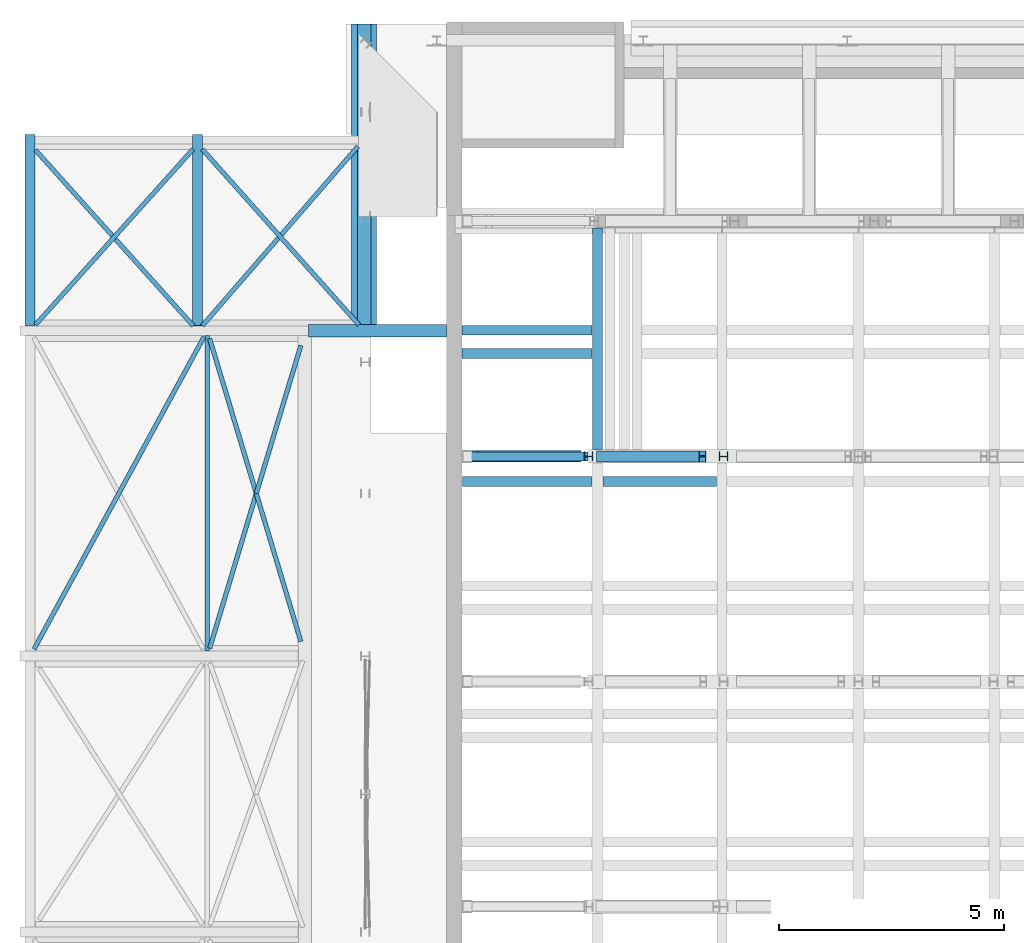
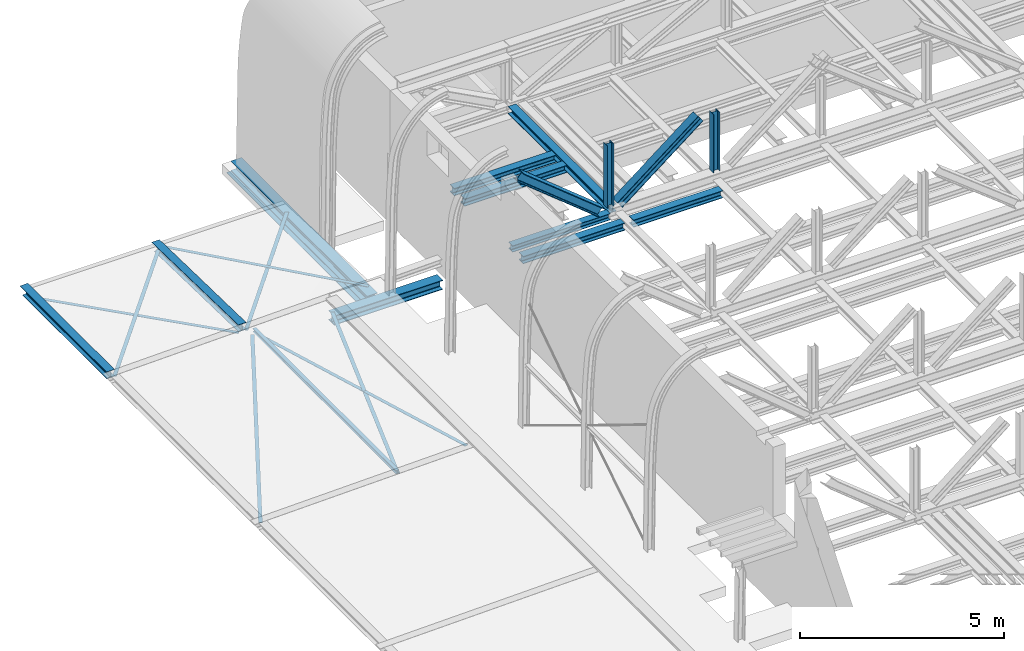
# One storey, part 16 of 29: 22 beams.
"""IFC2X3 building model written with IfcOpenShell, lengths in millimetres."""

from ifc_helpers import new_model, entity, si_unit, converted_unit, derived_unit, direction, frame, frame_2d, origin, place, context, subcontext, project, spatial, polyline, circle_curve, parameter, trimmed, segment, composite_curve, rectangle, i_section, outline, extrude, clip, halfspace, source, transform, mapped, material, material_list, type_object, type_shapes, element, save


model = new_model("IFC2X3")

# Units and contexts
model_context = context("Model", 3, precision=0.01, world=origin(), true_north=direction((6.12303176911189e-17, 1.0)))
body_context = subcontext(model_context, "Body", "Model", "MODEL_VIEW")
ifc_project = project(units=[si_unit("LENGTHUNIT", "METRE", prefix="MILLI"), si_unit("AREAUNIT", "SQUARE_METRE", prefix="MILLI"), si_unit("VOLUMEUNIT", "CUBIC_METRE"), converted_unit("PLANEANGLEUNIT", "DEGREE", entity("IfcRatioMeasure", 0.0174532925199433), si_unit("PLANEANGLEUNIT", "RADIAN"), dimensions=[0, 0, 0, 0, 0, 0, 0]), si_unit("MASSUNIT", "GRAM", prefix="KILO"), derived_unit("MASSDENSITYUNIT", [(si_unit("MASSUNIT", "GRAM", prefix="KILO"), 1), (si_unit("LENGTHUNIT", "METRE"), -3)]), derived_unit("MOMENTOFINERTIAUNIT", [(si_unit("LENGTHUNIT", "METRE"), 4)]), si_unit("TIMEUNIT", "SECOND"), si_unit("FREQUENCYUNIT", "HERTZ"), si_unit("THERMODYNAMICTEMPERATUREUNIT", "DEGREE_CELSIUS"), derived_unit("THERMALTRANSMITTANCEUNIT", [(si_unit("MASSUNIT", "GRAM", prefix="KILO"), 1), (si_unit("THERMODYNAMICTEMPERATUREUNIT", "KELVIN"), -1), (si_unit("TIMEUNIT", "SECOND"), -3)]), derived_unit("VOLUMETRICFLOWRATEUNIT", [(si_unit("LENGTHUNIT", "METRE"), 3), (si_unit("TIMEUNIT", "SECOND"), -1)]), si_unit("ELECTRICCURRENTUNIT", "AMPERE"), si_unit("ELECTRICVOLTAGEUNIT", "VOLT"), si_unit("POWERUNIT", "WATT"), si_unit("FORCEUNIT", "NEWTON", prefix="KILO"), si_unit("ILLUMINANCEUNIT", "LUX"), si_unit("LUMINOUSFLUXUNIT", "LUMEN"), si_unit("LUMINOUSINTENSITYUNIT", "CANDELA"), derived_unit("USERDEFINED", [(si_unit("MASSUNIT", "GRAM", prefix="KILO"), -1), (si_unit("LENGTHUNIT", "METRE"), -2), (si_unit("TIMEUNIT", "SECOND"), 3), (si_unit("LUMINOUSFLUXUNIT", "LUMEN"), 1)]), derived_unit("LINEARVELOCITYUNIT", [(si_unit("LENGTHUNIT", "METRE"), 1), (si_unit("TIMEUNIT", "SECOND"), -1)]), si_unit("PRESSUREUNIT", "PASCAL"), derived_unit("USERDEFINED", [(si_unit("LENGTHUNIT", "METRE"), -2), (si_unit("MASSUNIT", "GRAM", prefix="KILO"), 1), (si_unit("TIMEUNIT", "SECOND"), -2)]), derived_unit("LINEARFORCEUNIT", [(si_unit("MASSUNIT", "GRAM", prefix="KILO"), 1), (si_unit("LENGTHUNIT", "METRE"), 1), (si_unit("TIMEUNIT", "SECOND"), -2), (si_unit("LENGTHUNIT", "METRE"), -1)]), derived_unit("PLANARFORCEUNIT", [(si_unit("MASSUNIT", "GRAM", prefix="KILO"), 1), (si_unit("LENGTHUNIT", "METRE"), 1), (si_unit("TIMEUNIT", "SECOND"), -2), (si_unit("LENGTHUNIT", "METRE"), -2)])], contexts=[model_context])

# Site, building, storey
site_placement = place(None, origin())
site = spatial("IfcSite", under=ifc_project, at=site_placement, Name="Theater aan de Parade", CompositionType="ELEMENT")
building_placement = place(site_placement, origin())
building = spatial("IfcBuilding", under=site, at=building_placement, Name="Theater aan de Parade", CompositionType="ELEMENT")
storey_placement = place(building_placement, frame((0.0, 0.0, 20300.0)))
storey = spatial("IfcBuildingStorey", under=building, at=storey_placement, Name="05 vijfde verdieping", CompositionType="ELEMENT", Elevation=20300.0)

# Beams
ifc_material_1 = material(Name="00_PBT_MAT_staal_S355")
beam_type_1 = type_object("IfcBeamType", Name="28_PBT_SF_staal_H-profiel:S355_HE220B", PredefinedType="NOTDEFINED")
beam_1_placement = place(storey_placement, frame((70715.0, 40060.0, 0.0), z_axis=(0.0, 0.0, 1.0), x_axis=(0.0, 1.0, 0.0)))
element("IfcBeam", 1, at=beam_1_placement, inside=storey, type_object=beam_type_1, material=ifc_material_1, Name="28_PBT_SF_staal_H-profiel:S355_HE220B", ObjectType="28_PBT_SF_staal_H-profiel:S355_HE220B", context=body_context, shape_type="SweptSolid", body=[
    extrude(outline(composite_curve([segment(polyline([(94.0, -110.0), (110.0, -110.0)]), True, "CONTINUOUS"), segment(polyline([(110.0, -110.0), (110.0, 110.0)]), True, "CONTINUOUS"), segment(polyline([(110.0, 110.0), (94.0, 110.0)]), True, "CONTINUOUS"), segment(polyline([(94.0, 110.0), (94.0, 22.7499999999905)]), True, "CONTINUOUS"), segment(trimmed(circle_curve(frame_2d((76.0, 22.7499999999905), x_axis=(1.0, 0.0)), 17.9999999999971), [parameter(269.999999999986)], [parameter(0.0)], True, "PARAMETER"), False, "CONTINUOUS"), segment(polyline([(76.0, 4.74999999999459), (-76.0, 4.74999999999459)]), True, "CONTINUOUS"), segment(trimmed(circle_curve(frame_2d((-76.0, 22.7499999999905), x_axis=(0.0, -1.0)), 17.9999999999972), [parameter(269.999999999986)], [parameter(0.0)], True, "PARAMETER"), False, "CONTINUOUS"), segment(polyline([(-94.0, 22.7499999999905), (-94.0, 110.0)]), True, "CONTINUOUS"), segment(polyline([(-94.0, 110.0), (-110.0, 110.0)]), True, "CONTINUOUS"), segment(polyline([(-110.0, 110.0), (-110.0, -110.0)]), True, "CONTINUOUS"), segment(polyline([(-110.0, -110.0), (-94.0, -110.0)]), True, "CONTINUOUS"), segment(polyline([(-94.0, -110.0), (-94.0, -22.7500000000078)]), True, "CONTINUOUS"), segment(trimmed(circle_curve(frame_2d((-76.0, -22.7500000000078), x_axis=(-1.0, 0.0)), 17.9999999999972), [parameter(269.999999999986)], [parameter(0.0)], True, "PARAMETER"), False, "CONTINUOUS"), segment(polyline([(-76.0, -4.75000000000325), (76.0, -4.75000000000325)]), True, "CONTINUOUS"), segment(trimmed(circle_curve(frame_2d((76.0, -22.7500000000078), x_axis=(0.0, 1.0)), 17.9999999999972), [parameter(269.999999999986)], [parameter(0.0)], True, "PARAMETER"), False, "CONTINUOUS"), segment(polyline([(94.0, -22.7500000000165), (94.0, -110.0)]), True, "CONTINUOUS")], self_intersect=False)), frame((0.0, 0.0, 2360.0), z_axis=(1.0, 0.0, 0.0), x_axis=(0.0, 0.0, -1.0)), (0.0, 0.0, 1.0), 4925.00000000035),
])
beam_2_placement = place(storey_placement, frame((70715.0, 42712.5000000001, 0.0), z_axis=(0.0, 0.0, 1.0), x_axis=(-1.0, 0.0, 0.0)))
element("IfcBeam", 2, at=beam_2_placement, inside=storey, type_object=beam_type_1, material=ifc_material_1, Name="28_PBT_SF_staal_H-profiel:S355_HE220B", ObjectType="28_PBT_SF_staal_H-profiel:S355_HE220B", context=body_context, shape_type="SweptSolid", body=[
    extrude(outline(composite_curve([segment(polyline([(94.0, -110.0), (110.0, -110.0)]), True, "CONTINUOUS"), segment(polyline([(110.0, -110.0), (110.0, 110.0)]), True, "CONTINUOUS"), segment(polyline([(110.0, 110.0), (94.0, 110.0)]), True, "CONTINUOUS"), segment(polyline([(94.0, 110.0), (94.0, 22.7500000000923)]), True, "CONTINUOUS"), segment(trimmed(circle_curve(frame_2d((76.0, 22.7500000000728), x_axis=(1.0, 0.0)), 17.9999999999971), [parameter(269.999999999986)], [parameter(0.0)], True, "PARAMETER"), False, "CONTINUOUS"), segment(polyline([(76.0, 4.75000000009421), (-76.0, 4.74999999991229)]), True, "CONTINUOUS"), segment(trimmed(circle_curve(frame_2d((-76.0, 22.7499999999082), x_axis=(0.0, -1.0)), 17.9999999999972), [parameter(269.999999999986)], [parameter(0.0)], True, "PARAMETER"), False, "CONTINUOUS"), segment(polyline([(-94.0, 22.749999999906), (-94.0, 110.0)]), True, "CONTINUOUS"), segment(polyline([(-94.0, 110.0), (-110.0, 110.0)]), True, "CONTINUOUS"), segment(polyline([(-110.0, 110.0), (-110.0, -110.0)]), True, "CONTINUOUS"), segment(polyline([(-110.0, -110.0), (-94.0, -110.0)]), True, "CONTINUOUS"), segment(polyline([(-94.0, -110.0), (-94.0, -22.7500000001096)]), True, "CONTINUOUS"), segment(trimmed(circle_curve(frame_2d((-76.0, -22.7500000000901), x_axis=(-1.0, 0.0)), 17.9999999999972), [parameter(269.999999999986)], [parameter(0.0)], True, "PARAMETER"), False, "CONTINUOUS"), segment(polyline([(-76.0, -4.75000000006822), (76.0, -4.74999999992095)]), True, "CONTINUOUS"), segment(trimmed(circle_curve(frame_2d((76.0, -22.7499999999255), x_axis=(0.0, 1.0)), 17.9999999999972), [parameter(269.999999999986)], [parameter(0.0)], True, "PARAMETER"), False, "CONTINUOUS"), segment(polyline([(94.0, -22.7499999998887), (94.0, -110.0)]), True, "CONTINUOUS")], self_intersect=False)), frame((122.699999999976, 0.0, 2360.0), z_axis=(1.0, 0.0, 0.0), x_axis=(0.0, 0.0, -1.0)), (0.0, 0.0, 1.0), 2886.04389903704),
])
beam_3_placement = place(storey_placement, frame((70715.0, 42198.4998000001, 0.0), z_axis=(0.0, 0.0, 1.0), x_axis=(-1.0, 0.0, 0.0)))
element("IfcBeam", 3, at=beam_3_placement, inside=storey, type_object=beam_type_1, material=ifc_material_1, Name="28_PBT_SF_staal_H-profiel:S355_HE220B", ObjectType="28_PBT_SF_staal_H-profiel:S355_HE220B", context=body_context, shape_type="SweptSolid", body=[
    extrude(outline(composite_curve([segment(polyline([(94.0, -110.0), (110.0, -110.0)]), True, "CONTINUOUS"), segment(polyline([(110.0, -110.0), (110.0, 110.0)]), True, "CONTINUOUS"), segment(polyline([(110.0, 110.0), (94.0, 110.0)]), True, "CONTINUOUS"), segment(polyline([(94.0, 110.0), (94.0, 22.7500000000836)]), True, "CONTINUOUS"), segment(trimmed(circle_curve(frame_2d((76.0, 22.7500000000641), x_axis=(1.0, 0.0)), 17.9999999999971), [parameter(269.999999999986)], [parameter(0.0)], True, "PARAMETER"), False, "CONTINUOUS"), segment(polyline([(76.0, 4.75000000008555), (-76.0, 4.74999999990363)]), True, "CONTINUOUS"), segment(trimmed(circle_curve(frame_2d((-76.0, 22.7499999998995), x_axis=(0.0, -1.0)), 17.9999999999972), [parameter(269.999999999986)], [parameter(0.0)], True, "PARAMETER"), False, "CONTINUOUS"), segment(polyline([(-94.0, 22.7499999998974), (-94.0, 110.0)]), True, "CONTINUOUS"), segment(polyline([(-94.0, 110.0), (-110.0, 110.0)]), True, "CONTINUOUS"), segment(polyline([(-110.0, 110.0), (-110.0, -110.0)]), True, "CONTINUOUS"), segment(polyline([(-110.0, -110.0), (-94.0, -110.0)]), True, "CONTINUOUS"), segment(polyline([(-94.0, -110.0), (-94.0, -22.7500000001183)]), True, "CONTINUOUS"), segment(trimmed(circle_curve(frame_2d((-76.0, -22.7500000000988), x_axis=(-1.0, 0.0)), 17.9999999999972), [parameter(269.999999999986)], [parameter(0.0)], True, "PARAMETER"), False, "CONTINUOUS"), segment(polyline([(-76.0, -4.75000000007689), (76.0, -4.74999999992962)]), True, "CONTINUOUS"), segment(trimmed(circle_curve(frame_2d((76.0, -22.7499999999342), x_axis=(0.0, 1.0)), 17.9999999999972), [parameter(269.999999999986)], [parameter(0.0)], True, "PARAMETER"), False, "CONTINUOUS"), segment(polyline([(94.0, -22.7499999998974), (94.0, -110.0)]), True, "CONTINUOUS")], self_intersect=False)), frame((122.699999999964, 0.0, 2360.0), z_axis=(1.0, 0.0, 0.0), x_axis=(0.0, 0.0, -1.0)), (0.0, 0.0, 1.0), 2886.04389903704),
])
beam_4_placement = place(storey_placement, frame((70715.0, 39355.4998, 0.0), z_axis=(0.0, 0.0, 1.0), x_axis=(-1.0, 0.0, 0.0)))
element("IfcBeam", 4, at=beam_4_placement, inside=storey, type_object=beam_type_1, material=ifc_material_1, Name="28_PBT_SF_staal_H-profiel:S355_HE220B", ObjectType="28_PBT_SF_staal_H-profiel:S355_HE220B", context=body_context, shape_type="SweptSolid", body=[
    extrude(outline(composite_curve([segment(polyline([(94.0, -110.0), (110.0, -110.0)]), True, "CONTINUOUS"), segment(polyline([(110.0, -110.0), (110.0, 110.0)]), True, "CONTINUOUS"), segment(polyline([(110.0, 110.0), (94.0, 110.0)]), True, "CONTINUOUS"), segment(polyline([(94.0, 110.0), (94.0, 22.7500000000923)]), True, "CONTINUOUS"), segment(trimmed(circle_curve(frame_2d((76.0, 22.7500000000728), x_axis=(1.0, 0.0)), 17.9999999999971), [parameter(269.999999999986)], [parameter(0.0)], True, "PARAMETER"), False, "CONTINUOUS"), segment(polyline([(76.0, 4.75000000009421), (-76.0, 4.74999999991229)]), True, "CONTINUOUS"), segment(trimmed(circle_curve(frame_2d((-76.0, 22.7499999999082), x_axis=(0.0, -1.0)), 17.9999999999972), [parameter(269.999999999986)], [parameter(0.0)], True, "PARAMETER"), False, "CONTINUOUS"), segment(polyline([(-94.0, 22.749999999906), (-94.0, 110.0)]), True, "CONTINUOUS"), segment(polyline([(-94.0, 110.0), (-110.0, 110.0)]), True, "CONTINUOUS"), segment(polyline([(-110.0, 110.0), (-110.0, -110.0)]), True, "CONTINUOUS"), segment(polyline([(-110.0, -110.0), (-94.0, -110.0)]), True, "CONTINUOUS"), segment(polyline([(-94.0, -110.0), (-94.0, -22.7500000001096)]), True, "CONTINUOUS"), segment(trimmed(circle_curve(frame_2d((-76.0, -22.7500000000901), x_axis=(-1.0, 0.0)), 17.9999999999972), [parameter(269.999999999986)], [parameter(0.0)], True, "PARAMETER"), False, "CONTINUOUS"), segment(polyline([(-76.0, -4.75000000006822), (76.0, -4.74999999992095)]), True, "CONTINUOUS"), segment(trimmed(circle_curve(frame_2d((76.0, -22.7499999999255), x_axis=(0.0, 1.0)), 17.9999999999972), [parameter(269.999999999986)], [parameter(0.0)], True, "PARAMETER"), False, "CONTINUOUS"), segment(polyline([(94.0, -22.7499999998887), (94.0, -110.0)]), True, "CONTINUOUS")], self_intersect=False)), frame((122.699999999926, 0.0, 2360.0), z_axis=(1.0, 0.0, 0.0), x_axis=(0.0, 0.0, -1.0)), (0.0, 0.0, 1.0), 2873.34389903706),
])
beam_5_placement = place(storey_placement, frame((73483.3589914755, 39355.4998, 0.0), z_axis=(0.0, 0.0, 1.0), x_axis=(-1.0, 0.0, 0.0)))
element("IfcBeam", 5, at=beam_5_placement, inside=storey, type_object=beam_type_1, material=ifc_material_1, Name="28_PBT_SF_staal_H-profiel:S355_HE220B", ObjectType="28_PBT_SF_staal_H-profiel:S355_HE220B", context=body_context, shape_type="SweptSolid", body=[
    extrude(outline(composite_curve([segment(polyline([(94.0, -110.0), (110.0, -110.0)]), True, "CONTINUOUS"), segment(polyline([(110.0, -110.0), (110.0, 110.0)]), True, "CONTINUOUS"), segment(polyline([(110.0, 110.0), (94.0, 110.0)]), True, "CONTINUOUS"), segment(polyline([(94.0, 110.0), (94.0, 22.7500000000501)]), True, "CONTINUOUS"), segment(trimmed(circle_curve(frame_2d((76.0, 22.7500000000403), x_axis=(1.0, 0.0)), 17.9999999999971), [parameter(269.999999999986)], [parameter(0.0)], True, "PARAMETER"), False, "CONTINUOUS"), segment(polyline([(76.0, 4.75000000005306), (-76.0, 4.7499999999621)]), True, "CONTINUOUS"), segment(trimmed(circle_curve(frame_2d((-76.0, 22.749999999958), x_axis=(0.0, -1.0)), 17.9999999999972), [parameter(269.999999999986)], [parameter(0.0)], True, "PARAMETER"), False, "CONTINUOUS"), segment(polyline([(-94.0, 22.7499999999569), (-94.0, 110.0)]), True, "CONTINUOUS"), segment(polyline([(-94.0, 110.0), (-110.0, 110.0)]), True, "CONTINUOUS"), segment(polyline([(-110.0, 110.0), (-110.0, -110.0)]), True, "CONTINUOUS"), segment(polyline([(-110.0, -110.0), (-94.0, -110.0)]), True, "CONTINUOUS"), segment(polyline([(-94.0, -110.0), (-94.0, -22.7500000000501)]), True, "CONTINUOUS"), segment(trimmed(circle_curve(frame_2d((-76.0, -22.7500000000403), x_axis=(-1.0, 0.0)), 17.9999999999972), [parameter(269.999999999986)], [parameter(0.0)], True, "PARAMETER"), False, "CONTINUOUS"), segment(polyline([(-76.0, -4.75000000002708), (76.0, -4.74999999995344)]), True, "CONTINUOUS"), segment(trimmed(circle_curve(frame_2d((76.0, -22.749999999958), x_axis=(0.0, 1.0)), 17.9999999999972), [parameter(269.999999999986)], [parameter(0.0)], True, "PARAMETER"), False, "CONTINUOUS"), segment(polyline([(94.0, -22.7499999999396), (94.0, -110.0)]), True, "CONTINUOUS")], self_intersect=False)), frame((122.700000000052, 0.0, 2360.0), z_axis=(1.0, 0.0, 0.0), x_axis=(0.0, 0.0, -1.0)), (0.0, 0.0, 1.0), 2522.95899147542),
])
beam_type_2 = type_object("IfcBeamType", Name="28_PBT_SF_staal_H-profiel:S355_HE220A", PredefinedType="NOTDEFINED")
beam_6_placement = place(storey_placement, frame((58114.89761, 42810.0, 53.3503559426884), z_axis=(0.0, 0.0, 1.0), x_axis=(0.0, 1.0, 0.0)))
element("IfcBeam", 6, at=beam_6_placement, inside=storey, type_object=beam_type_2, material=ifc_material_1, Name="28_PBT_SF_staal_H-profiel:S355_HE220A", ObjectType="28_PBT_SF_staal_H-profiel:S355_HE220A", context=body_context, shape_type="Clipping", body=[
    clip(extrude(i_section(OverallWidth=219.999999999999, OverallDepth=210.0, WebThickness=6.99999999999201, FlangeThickness=10.9999999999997, FilletRadius=18.0000000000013, at=frame_2d((4.44089209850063e-12, -4.220623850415e-12), x_axis=(1.0, 0.0))), frame((0.0, 2.59326393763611, 104.967971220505), z_axis=(1.0, 0.0, 0.0), x_axis=(0.0, -0.999694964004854, 0.0246977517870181)), (0.0, 0.0, 1.0), 4248.38007654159), halfspace(frame((4190.53852112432, -156.495608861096, 112.468182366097), z_axis=(0.866025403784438, 0.0, -0.500000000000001), x_axis=(0.500000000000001, 0.0, 0.866025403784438)), False)),
])
beam_type_3 = type_object("IfcBeamType", Name="28_PBT_SF_staal_H-profiel:S355_HE280B", PredefinedType="NOTDEFINED")
beam_7_placement = place(storey_placement, frame((64292.0560363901, 42700.0, 0.0)))
element("IfcBeam", 7, at=beam_7_placement, inside=storey, type_object=beam_type_3, material=ifc_material_1, Name="28_PBT_SF_staal_H-profiel:S355_HE280B", ObjectType="28_PBT_SF_staal_H-profiel:S355_HE280B", context=body_context, shape_type="SweptSolid", body=[
    extrude(outline(composite_curve([segment(polyline([(122.0, -140.0), (140.0, -140.0)]), True, "CONTINUOUS"), segment(polyline([(140.0, -140.0), (140.0, 140.0)]), True, "CONTINUOUS"), segment(polyline([(140.0, 140.0), (122.0, 140.0)]), True, "CONTINUOUS"), segment(polyline([(122.0, 140.0), (122.0, 29.2500000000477)]), True, "CONTINUOUS"), segment(trimmed(circle_curve(frame_2d((98.0, 29.2500000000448), x_axis=(1.0, 0.0)), 24.0000000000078), [parameter(270.000000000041)], [parameter(0.0)], True, "PARAMETER"), False, "CONTINUOUS"), segment(polyline([(98.0, 5.2500000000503), (-98.0, 5.24999999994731)]), True, "CONTINUOUS"), segment(trimmed(circle_curve(frame_2d((-98.0, 29.2499999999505), x_axis=(0.0, -1.0)), 24.0000000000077), [parameter(270.000000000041)], [parameter(0.0)], True, "PARAMETER"), False, "CONTINUOUS"), segment(polyline([(-122.0, 29.2499999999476), (-122.0, 140.0)]), True, "CONTINUOUS"), segment(polyline([(-122.0, 140.0), (-140.0, 140.0)]), True, "CONTINUOUS"), segment(polyline([(-140.0, 140.0), (-140.0, -140.0)]), True, "CONTINUOUS"), segment(polyline([(-140.0, -140.0), (-122.0, -140.0)]), True, "CONTINUOUS"), segment(polyline([(-122.0, -140.0), (-122.0, -29.2500000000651)]), True, "CONTINUOUS"), segment(trimmed(circle_curve(frame_2d((-98.0, -29.2500000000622), x_axis=(-1.0, 0.0)), 24.0000000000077), [parameter(270.000000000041)], [parameter(0.0)], True, "PARAMETER"), False, "CONTINUOUS"), segment(polyline([(-98.0, -5.25000000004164), (98.0, -5.24999999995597)]), True, "CONTINUOUS"), segment(trimmed(circle_curve(frame_2d((98.0, -29.2499999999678), x_axis=(0.0, 1.0)), 24.0000000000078), [parameter(270.000000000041)], [parameter(0.0)], True, "PARAMETER"), False, "CONTINUOUS"), segment(polyline([(122.0, -29.2499999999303), (122.0, -140.0)]), True, "CONTINUOUS")], self_intersect=False)), frame((0.0, 0.0, -255.0), z_axis=(1.0, 0.0, 0.0), x_axis=(0.0, 0.0, -1.0)), (0.0, 0.0, 1.0), 3064.20006457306),
])
beam_type_4 = type_object("IfcBeamType", Name="28_PBT_SF_staal_H-profiel:S355_HE200A", PredefinedType="NOTDEFINED")
beam_8_placement = place(storey_placement, frame((73514.8549241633, 39910.0, 2429.0), z_axis=(1.0, 0.0, 0.0), x_axis=(0.0, 0.0, 1.0)))
element("IfcBeam", 8, at=beam_8_placement, inside=storey, type_object=beam_type_4, material=ifc_material_1, Name="28_PBT_SF_staal_H-profiel:S355_HE200A", ObjectType="28_PBT_SF_staal_H-profiel:S355_HE200A", context=body_context, shape_type="SweptSolid", body=[
    extrude(i_section(OverallWidth=199.999999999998, OverallDepth=190.0, WebThickness=6.49999999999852, FlangeThickness=9.99999999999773, FilletRadius=17.9999999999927, at=frame_2d((-4.33431068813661e-12, -4.33431068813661e-12), x_axis=(0.0, 1.0))), frame((192.700000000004, 0.0, 0.0), z_axis=(1.0, 0.0, 0.0), x_axis=(0.0, 0.0, -1.0)), (0.0, 0.0, 1.0), 1757.6),
])
beam_9_placement = place(storey_placement, frame((67742.4274620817, 39910.0, 2344.0)))
element("IfcBeam", 9, at=beam_9_placement, inside=storey, type_object=beam_type_4, material=ifc_material_1, Name="28_PBT_SF_staal_H-profiel:S355_HE200A", ObjectType="28_PBT_SF_staal_H-profiel:S355_HE200A", context=body_context, shape_type="SweptSolid", body=[
    extrude(i_section(OverallWidth=200.000000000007, OverallDepth=190.0, WebThickness=6.49999999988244, FlangeThickness=9.99999999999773, FilletRadius=17.9999999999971, at=frame_2d((0.0, -4.33431068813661e-12), x_axis=(0.0, 1.0))), frame((0.0, 0.0, 0.0), z_axis=(1.0, 0.0, 0.0), x_axis=(0.0, 0.0, -1.0)), (0.0, 0.0, 1.0), 2762.2999993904),
])
beam_10_placement = place(storey_placement, frame((70517.4274620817, 39910.0, 2344.0), z_axis=(1.0, 0.0, 0.0), x_axis=(0.0, 0.0, 1.0)))
element("IfcBeam", 10, at=beam_10_placement, inside=storey, type_object=beam_type_4, material=ifc_material_1, Name="28_PBT_SF_staal_H-profiel:S355_HE200A", ObjectType="28_PBT_SF_staal_H-profiel:S355_HE200A", context=body_context, shape_type="SweptSolid", body=[
    extrude(i_section(OverallWidth=199.999999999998, OverallDepth=190.0, WebThickness=6.49999999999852, FlangeThickness=9.99999999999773, FilletRadius=17.9999999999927, at=frame_2d((-4.33431068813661e-12, 4.33431068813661e-12), x_axis=(0.0, 1.0))), frame((277.699999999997, 0.0, 0.0), z_axis=(1.0, 0.0, 0.0), x_axis=(0.0, 0.0, -1.0)), (0.0, 0.0, 1.0), 1864.6),
])
beam_type_5 = type_object("IfcBeamType", Name="28_PBT_SF_staal_H-profiel:S355_HE260B", PredefinedType="NOTDEFINED")
beam_11_placement = place(storey_placement, frame((67520.0, 39910.0, 4764.0), z_axis=(0.628180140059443, 0.0, 0.778067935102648), x_axis=(0.778067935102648, 0.0, -0.628180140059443)))
element("IfcBeam", 11, at=beam_11_placement, inside=storey, type_object=beam_type_5, material=ifc_material_1, Name="28_PBT_SF_staal_H-profiel:S355_HE260B", ObjectType="28_PBT_SF_staal_H-profiel:S355_HE260B", context=body_context, shape_type="SweptSolid", body=[
    extrude(i_section(OverallWidth=260.000000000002, OverallDepth=260.000000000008, WebThickness=9.99999999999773, FlangeThickness=17.5000000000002, FilletRadius=23.9999999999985, at=frame_2d((-3.36797256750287e-12, 4.32009983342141e-12), x_axis=(0.0, 1.0))), frame((595.572345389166, 0.0, 0.0), z_axis=(1.0, 0.0, 0.0), x_axis=(0.0, 0.0, -1.0)), (0.0, 0.0, 1.0), 2931.87645368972),
])
beam_type_6 = type_object("IfcBeamType", Name="28_PBT_SF_staal_H-profiel:S355_HE240B", PredefinedType="NOTDEFINED")
beam_12_placement = place(storey_placement, frame((70424.4354556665, 39910.0, 2344.0), z_axis=(-0.616531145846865, 0.0, 0.787330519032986), x_axis=(0.787330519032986, 0.0, 0.616531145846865)))
element("IfcBeam", 12, at=beam_12_placement, inside=storey, type_object=beam_type_6, material=ifc_material_1, Name="28_PBT_SF_staal_H-profiel:S355_HE240B", ObjectType="28_PBT_SF_staal_H-profiel:S355_HE240B", context=body_context, shape_type="SweptSolid", body=[
    extrude(i_section(OverallWidth=239.999999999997, OverallDepth=240.000000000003, WebThickness=9.99999999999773, FlangeThickness=17.0000000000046, FilletRadius=20.9999999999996, at=frame_2d((-7.7875483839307e-12, 0.0), x_axis=(0.0, 1.0))), frame((430.600887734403, 0.0, 0.0), z_axis=(1.0, 0.0, 0.0), x_axis=(0.0, 0.0, -1.0)), (0.0, 0.0, 1.0), 2898.81791939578),
])
ifc_material_2 = material(Name="00_PBT_MAT_staal")
beam_type_7 = type_object("IfcBeamType", Name="28_PBT_SF_staal_strip:strip 100x10", PredefinedType="NOTDEFINED")
beam_13_placement = place(storey_placement, frame((64224.8693387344, 42700.0, 190.0), z_axis=(-0.00150847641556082, -0.00500829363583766, 0.999986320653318), x_axis=(-0.288394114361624, -0.957497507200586, -0.00523053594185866)))
element("IfcBeam", 13, at=beam_13_placement, inside=storey, type_object=beam_type_7, material=ifc_material_2, Name="28_PBT_SF_staal_strip:strip 100x10", ObjectType="28_PBT_SF_staal_strip:strip 100x10", context=body_context, shape_type="SweptSolid", body=[
    extrude(rectangle(XDim=10.0000000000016, YDim=100.000000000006, at=frame_2d((-7.105427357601e-15, -4.14956957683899e-12), x_axis=(1.0, 0.0))), frame((340.83445303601, 0.0, -15.0), z_axis=(1.0, 0.0, 0.0), x_axis=(0.0, 0.0, -1.0)), (0.0, 0.0, 1.0), 7022.1860366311),
])
beam_14_placement = place(storey_placement, frame((58114.4291315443, 35472.499995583, 53.3387820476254), z_axis=(-0.00564519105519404, -0.0103724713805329, 0.999930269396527), x_axis=(0.478001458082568, 0.878279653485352, 0.0118091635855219)))
element("IfcBeam", 14, at=beam_14_placement, inside=storey, type_object=beam_type_7, material=ifc_material_2, Name="28_PBT_SF_staal_strip:strip 100x10", ObjectType="28_PBT_SF_staal_strip:strip 100x10", context=body_context, shape_type="SweptSolid", body=[
    extrude(rectangle(XDim=9.99999999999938, YDim=99.9999999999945, at=frame_2d((4.83879603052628e-12, 1.07469588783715e-13), x_axis=(0.0, 1.0))), frame((181.695479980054, -0.325395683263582, -14.996470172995), z_axis=(1.0, 0.0, 0.0), x_axis=(0.0, -0.999764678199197, 0.0216930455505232)), (0.0, 0.0, 1.0), 7894.0444606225),
])
beam_15_placement = place(storey_placement, frame((64224.8693387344, 35472.499995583, 190.0), z_axis=(-0.00150847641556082, 0.00500829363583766, 0.999986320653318), x_axis=(-0.288394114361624, 0.957497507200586, -0.00523053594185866)))
element("IfcBeam", 15, at=beam_15_placement, inside=storey, type_object=beam_type_7, material=ifc_material_2, Name="28_PBT_SF_staal_strip:strip 100x10", ObjectType="28_PBT_SF_staal_strip:strip 100x10", context=body_context, shape_type="SweptSolid", body=[
    extrude(rectangle(XDim=9.99999999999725, YDim=99.9999999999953, at=frame_2d((4.33120206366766e-12, 0.0), x_axis=(1.0, 0.0))), frame((340.834453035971, 0.0, -15.0), z_axis=(1.0, 0.0, 0.0), x_axis=(0.0, 0.0, -1.0)), (0.0, 0.0, 1.0), 7022.18603663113),
])
beam_16_placement = place(storey_placement, frame((58114.4291315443, 42700.0, 53.3387820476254), z_axis=(-0.0247583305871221, -0.0275990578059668, 0.999312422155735), x_axis=(0.667300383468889, 0.743865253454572, 0.037076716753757)))
element("IfcBeam", 16, at=beam_16_placement, inside=storey, type_object=beam_type_7, material=ifc_material_2, Name="28_PBT_SF_staal_strip:strip 100x10", ObjectType="28_PBT_SF_staal_strip:strip 100x10", context=body_context, shape_type="SweptSolid", body=[
    extrude(rectangle(XDim=9.99999999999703, YDim=99.9999999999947, at=frame_2d((-1.28785870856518e-14, -6.11777295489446e-12), x_axis=(1.0, 0.0))), frame((174.164699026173, 0.0, -15.0), z_axis=(1.0, 0.0, 0.0), x_axis=(0.0, 0.0, -1.0)), (0.0, 0.0, 1.0), 5246.30084941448),
])
beam_17_placement = place(storey_placement, frame((65533.7593261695, 42700.0, 240.0), z_axis=(0.00239626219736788, -0.00268533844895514, 0.999993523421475), x_axis=(-0.665800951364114, 0.746120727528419, 0.00359904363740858)))
element("IfcBeam", 17, at=beam_17_placement, inside=storey, type_object=beam_type_7, material=ifc_material_2, Name="28_PBT_SF_staal_strip:strip 100x10", ObjectType="28_PBT_SF_staal_strip:strip 100x10", context=body_context, shape_type="SweptSolid", body=[
    extrude(rectangle(XDim=10.0000000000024, YDim=100.000000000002, at=frame_2d((8.88178419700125e-16, -6.11422024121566e-12), x_axis=(1.0, 0.0))), frame((174.16469902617, 0.0, -15.0), z_axis=(1.0, 0.0, 0.0), x_axis=(0.0, 0.0, -1.0)), (0.0, 0.0, 1.0), 5229.45137146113),
])
beam_18_placement = place(storey_placement, frame((65506.4936873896, 46924.0934530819, 50.0), z_axis=(0.011765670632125, 0.0135629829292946, 0.999838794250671), x_axis=(-0.655177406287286, -0.755261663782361, 0.0179550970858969)))
element("IfcBeam", 18, at=beam_18_placement, inside=storey, type_object=beam_type_7, material=ifc_material_2, Name="28_PBT_SF_staal_strip:strip 100x10", ObjectType="28_PBT_SF_staal_strip:strip 100x10", context=body_context, shape_type="SweptSolid", body=[
    extrude(rectangle(XDim=9.99999999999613, YDim=99.9999999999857, at=frame_2d((2.17337259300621e-12, 6.11066752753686e-12), x_axis=(1.0, 0.0))), frame((174.164699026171, 0.0, -15.0), z_axis=(1.0, 0.0, 0.0), x_axis=(0.0, 0.0, -1.0)), (0.0, 0.0, 1.0), 5270.73112321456),
])
beam_19_placement = place(storey_placement, frame((58114.89761, 46844.481655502, 45.0), z_axis=(-0.0126412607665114, 0.0140836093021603, 0.999820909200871), x_axis=(0.667852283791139, -0.744053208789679, 0.0189248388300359)))
element("IfcBeam", 19, at=beam_19_placement, inside=storey, type_object=beam_type_7, material=ifc_material_2, Name="28_PBT_SF_staal_strip:strip 100x10", ObjectType="28_PBT_SF_staal_strip:strip 100x10", context=body_context, shape_type="SweptSolid", body=[
    extrude(rectangle(XDim=10.0000000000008, YDim=100.000000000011, at=frame_2d((-5.50670620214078e-14, -3.22231130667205e-12), x_axis=(1.0, 0.0))), frame((174.164699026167, 0.0, -15.0), z_axis=(1.0, 0.0, 0.0), x_axis=(0.0, 0.0, -1.0)), (0.0, 0.0, 1.0), 5248.066918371),
])
beam_type_8 = type_object("IfcBeamType", Name="28_PBT_SF_staal_H-profiel (void):S355_HE220A", PredefinedType="NOTDEFINED")
beam_20_placement = place(storey_placement, frame((61833.8822563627, 47410.0, 46.4999999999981), z_axis=(0.0, 0.0234717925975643, 0.999724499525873), x_axis=(0.0, -0.999724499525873, 0.0234717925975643)))
element("IfcBeam", 20, at=beam_20_placement, inside=storey, type_object=beam_type_8, material=ifc_material_1, Name="28_PBT_SF_staal_H-profiel (void):S355_HE220A", ObjectType="28_PBT_SF_staal_H-profiel (void):S355_HE220A", context=body_context, shape_type="Clipping", body=[
    clip(extrude(i_section(OverallWidth=220.000000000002, OverallDepth=210.000000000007, WebThickness=6.99999999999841, FlangeThickness=11.0000000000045, FilletRadius=17.9999999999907, at=frame_2d((-2.16715534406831e-12, 0.0), x_axis=(0.0, 1.0))), frame((355.950719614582, 0.0, 105.0), z_axis=(1.0, 0.0, 0.0), x_axis=(0.0, 0.0, -1.0)), (0.0, 0.0, 1.0), 4245.31693180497), halfspace(frame((411.424829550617, -3562.48903750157, 108.485443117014), z_axis=(-0.877522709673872, 0.0, -0.479535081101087), x_axis=(-0.479535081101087, 0.0, 0.877522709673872)), False)),
])
ifc_material_3 = material(Name="00_PBT_MAT_Lucht")
ifc_material_list = material_list([ifc_material_1, ifc_material_3])
beam_type_9 = type_object("IfcBeamType", Name="28_PBT_SF_staal_H-profiel_met_onderplaat (void):S355_HE300B + onderplaat d=12", PredefinedType="BEAM", material=ifc_material_list)
shared_shape = source(origin(), body_context, "Body", "SweptSolid", [
    extrude(i_section(OverallWidth=300.000000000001, OverallDepth=300.000000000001, WebThickness=10.9999999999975, FlangeThickness=19.0, FilletRadius=26.9999999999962, at=frame_2d((-8.65441052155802e-12, 0.0), x_axis=(1.0, 0.0))), frame((65528.9041808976, 49511.9979908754, 20075.0), z_axis=(0.0, -1.0, 0.0), x_axis=(-1.0, 0.0, 0.0)), (0.0, 0.0, 1.0), 6671.99799087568),
    extrude(rectangle(XDim=12.0000000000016, YDim=550.000000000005, at=frame_2d((-4.32009983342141e-12, -4.33164615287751e-12), x_axis=(0.0, 1.0))), frame((65528.9041808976, 49511.9979908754, 19919.0), z_axis=(0.0, -1.0, 0.0), x_axis=(-1.0, 0.0, 0.0)), (0.0, 0.0, 1.0), 6671.99799087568),
])
type_shapes(beam_type_9, [shared_shape])
beam_21_placement = place(storey_placement, frame((0.0, 0.0, -20300.0)))
element("IfcBeam", 21, at=beam_21_placement, inside=storey, type_object=beam_type_9, material=ifc_material_1, Name="28_PBT_SF_staal_H-profiel_met_onderplaat (void):S355_HE300B + onderplaat d=12", ObjectType="28_PBT_SF_staal_H-profiel_met_onderplaat (void):S355_HE300B + onderplaat d=12", context=body_context, shape_type="MappedRepresentation", body=[
    mapped(shared_shape, transform((0.0, 0.0, 0.0), scale=1.0)),
])
beam_type_10 = type_object("IfcBeamType", Name="28_PBT_SF_staal_H-profiel:S355_HE100A", PredefinedType="NOTDEFINED")
beam_22_placement = place(storey_placement, frame((62051.1518609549, 35582.499995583, 150.596650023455), z_axis=(0.0, 0.0, 1.0), x_axis=(0.0, 1.0, 0.0)))
element("IfcBeam", 22, at=beam_22_placement, inside=storey, type_object=beam_type_10, material=ifc_material_1, Name="28_PBT_SF_staal_H-profiel:S355_HE100A", ObjectType="28_PBT_SF_staal_H-profiel:S355_HE100A", context=body_context, shape_type="SweptSolid", body=[
    extrude(i_section(OverallWidth=99.9999999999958, OverallDepth=96.0000000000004, WebThickness=4.99999999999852, FlangeThickness=7.99999999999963, FilletRadius=12.0000000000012, at=frame_2d((-4.9737991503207e-14, 2.1600499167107e-12), x_axis=(1.0, 0.0))), frame((0.0, 2.51917068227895, 101.968886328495), z_axis=(1.0, 0.0, 0.0), x_axis=(0.0, -0.999694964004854, 0.0246977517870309)), (0.0, 0.0, 1.0), 7007.50000441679),
])

save(model, "model.ifc")
